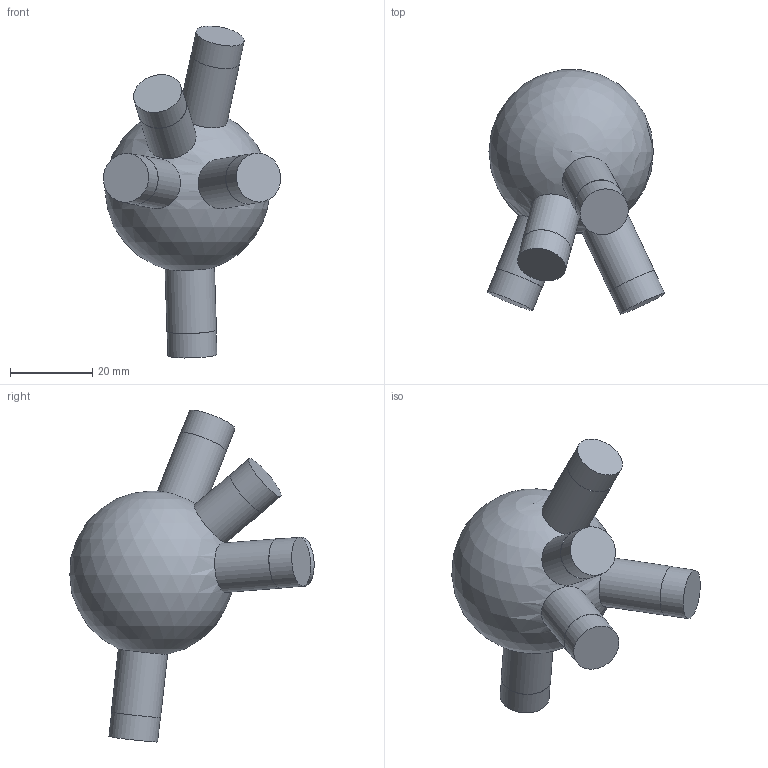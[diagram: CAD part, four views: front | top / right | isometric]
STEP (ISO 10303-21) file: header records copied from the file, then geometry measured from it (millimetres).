
FILE_DESCRIPTION(('Open CASCADE Model'),'2;1');
FILE_NAME('Open CASCADE Shape Model','2026-10-21T12:47:57',('Author'),( 'Open CASCADE'),'Open CASCADE STEP processor 7.9','Open CASCADE 7.9' ,'Unknown');
FILE_SCHEMA(('AUTOMOTIVE_DESIGN { 1 0 10303 214 1 1 1 1 }'));
Length unit declared in the file: millimetre
Products named in the file (1): Open CASCADE STEP translator 7.9 96
Bounding box: 43.05 x 59.29 x 80.59 mm (x, y, z)
Volume: 44817.6 mm3; surface area: 8879.2 mm2
Topology: 1 solids, 1 shells, 21 faces, 33 edges, 22 vertices
Faces by surface type: cylinder 10, plane 10, sphere 1
Full cylindrical faces by diameter (mm): 11.9 x5, 12 x5
Entity records: 1261 total; most frequent: CARTESIAN_POINT 503, DIRECTION 156, ORIENTED_EDGE 64, PCURVE 64, DEFINITIONAL_REPRESENTATION 64, LINE 53, VECTOR 53, AXIS2_PLACEMENT_3D 44
